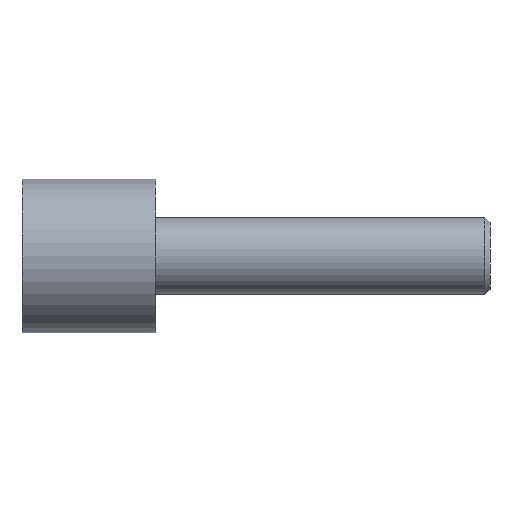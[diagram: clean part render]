
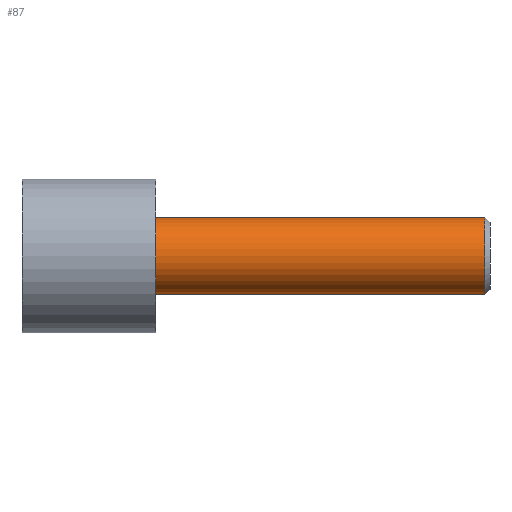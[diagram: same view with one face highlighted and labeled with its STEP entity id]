
A CAD part, front view. The second image highlights one B-rep face of the part: STEP entity #87.
In plain terms, the highlighted cylindrical face has radius 1.15 mm (diameter 2.3 mm), a full revolution.
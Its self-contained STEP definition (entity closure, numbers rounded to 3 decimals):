
#87 = ADVANCED_FACE( '', ( #153, #154 ), #155, .T. );
#153 = FACE_OUTER_BOUND( '', #254, .T. );
#154 = FACE_OUTER_BOUND( '', #255, .T. );
#155 = CYLINDRICAL_SURFACE( '', #256, 1.15 );
#254 = EDGE_LOOP( '', ( #433 ) );
#255 = EDGE_LOOP( '', ( #434 ) );
#256 = AXIS2_PLACEMENT_3D( '', #435, #436, #437 );
#433 = ORIENTED_EDGE( '', *, *, #735, .F. );
#434 = ORIENTED_EDGE( '', *, *, #736, .T. );
#435 = CARTESIAN_POINT( '', ( 10., 0., 0. ) );
#436 = DIRECTION( '', ( -1., 0., 0. ) );
#437 = DIRECTION( '', ( 0., 0., -1. ) );
#735 = EDGE_CURVE( '', #891, #891, #892, .T. );
#736 = EDGE_CURVE( '', #893, #893, #894, .T. );
#891 = VERTEX_POINT( '', #1106 );
#892 = CIRCLE( '', #1107, 1.15 );
#893 = VERTEX_POINT( '', #1108 );
#894 = CIRCLE( '', #1109, 1.15 );
#1106 = CARTESIAN_POINT( '', ( 9.847, 0., -1.15 ) );
#1107 = AXIS2_PLACEMENT_3D( '', #1338, #1339, #1340 );
#1108 = CARTESIAN_POINT( '', ( 0., 0., -1.15 ) );
#1109 = AXIS2_PLACEMENT_3D( '', #1341, #1342, #1343 );
#1338 = CARTESIAN_POINT( '', ( 9.847, 0., 0. ) );
#1339 = DIRECTION( '', ( 1., 0., 0. ) );
#1340 = DIRECTION( '', ( 0., 0., -1. ) );
#1341 = CARTESIAN_POINT( '', ( 0., 0., 0. ) );
#1342 = DIRECTION( '', ( 1., 0., 0. ) );
#1343 = DIRECTION( '', ( 0., 0., -1. ) );
